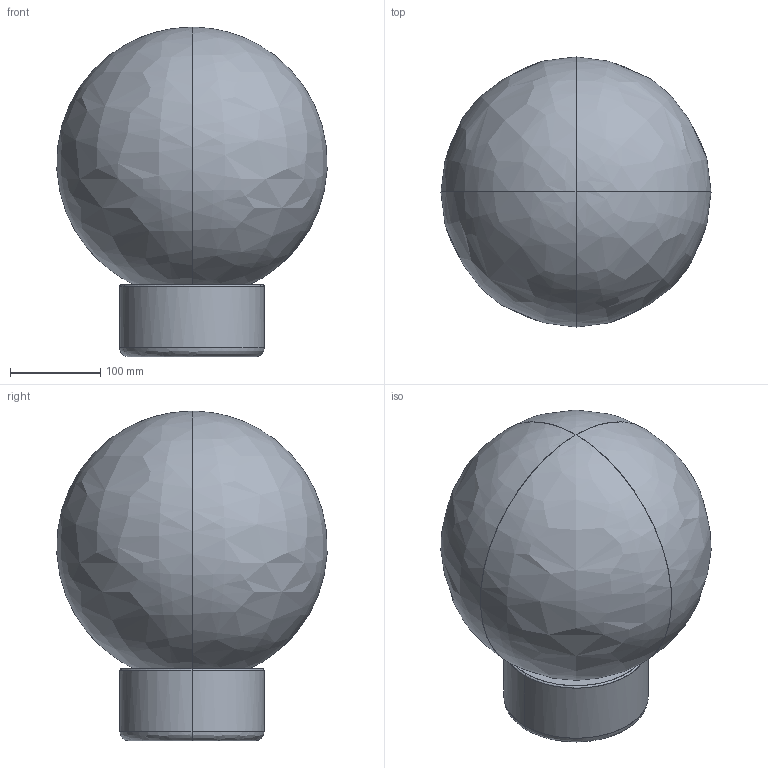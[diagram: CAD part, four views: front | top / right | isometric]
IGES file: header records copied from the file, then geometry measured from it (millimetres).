
Start section: Comment
Global section: file name: Base assemblata Grande.igs; native system:  By UGS Corp.; preprocessor: XPlus GENERIC/IGES 3.0; author: Author; organization: Title; date: 20240509.094838; units: inch
Bounding box: 299.6 x 299.6 x 365.58 mm (x, y, z)
Surface area: 690296.7 mm2 (no closed solid volume)
Topology: 0 solids, 0 shells, 328 faces, 2208 edges, 2192 vertices
Faces by surface type: bspline 328
